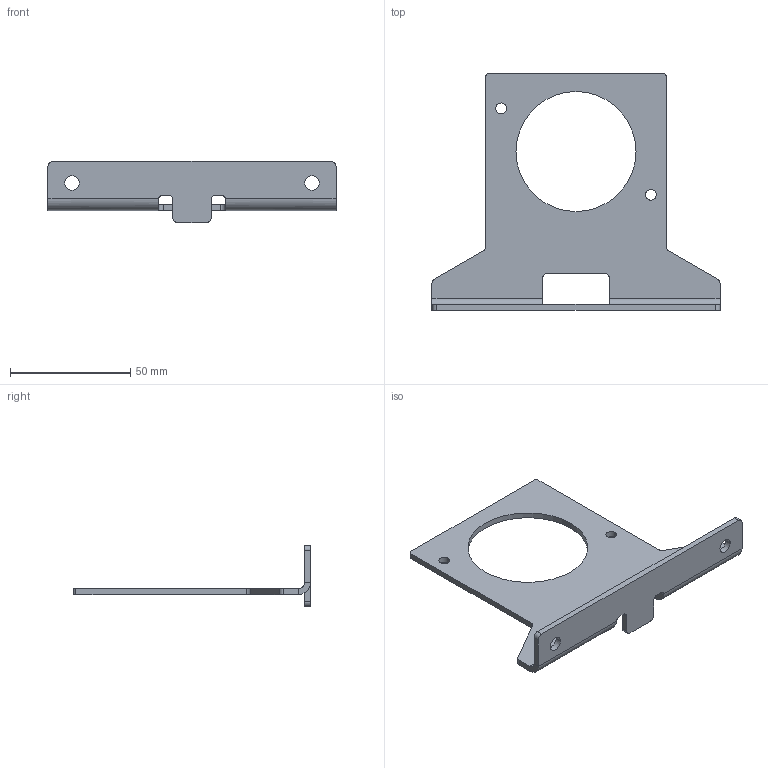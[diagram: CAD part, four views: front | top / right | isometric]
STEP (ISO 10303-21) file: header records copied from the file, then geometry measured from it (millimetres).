
FILE_DESCRIPTION((''),'2;1');
FILE_NAME('SB105630_3D_COLOUR','2013-07-18T',('SESA214371'),('Schneider-Electric'),'PRO/ENGINEER BY PARAMETRIC TECHNOLOGY CORPORATION, 2011410','PRO/ENGINEER BY PARAMETRIC TECHNOLOGY CORPORATION, 2011410','');
FILE_SCHEMA(('CONFIG_CONTROL_DESIGN'));
Length unit declared in the file: millimetre
Products named in the file (1): SB105630_3D_COLOUR
Bounding box: 120 x 98.7 x 25.5 mm (x, y, z)
Volume: 19652.1 mm3; surface area: 17667.7 mm2
Topology: 1 solids, 1 shells, 56 faces, 156 edges, 100 vertices
Faces by surface type: cylinder 30, plane 26
Entity records: 1875 total; most frequent: CARTESIAN_POINT 329, DIRECTION 324, ORIENTED_EDGE 312, EDGE_CURVE 156, AXIS2_PLACEMENT_3D 116, VERTEX_POINT 100, VECTOR 92, LINE 92
